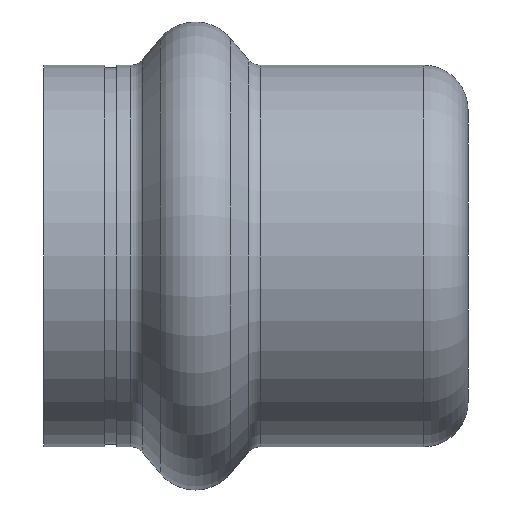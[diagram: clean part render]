
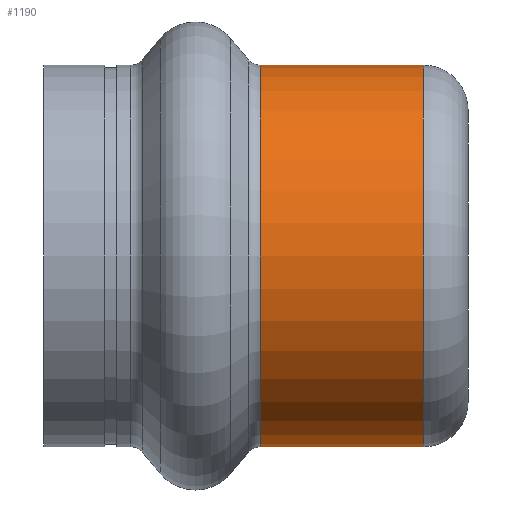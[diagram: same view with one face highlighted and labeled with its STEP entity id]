
A CAD part, front view. The second image highlights one B-rep face of the part: STEP entity #1190.
In plain terms, the highlighted cylindrical face has radius 12.6 mm (diameter 25.2 mm), a partial arc.
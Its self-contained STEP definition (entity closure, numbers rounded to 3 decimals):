
#98 = VECTOR ( 'NONE', #621, 1000. ) ;
#100 = CARTESIAN_POINT ( 'NONE',  ( 18.268, 0., -12.6 ) ) ;
#107 = ORIENTED_EDGE ( 'NONE', *, *, #166, .T. ) ;
#166 = EDGE_CURVE ( 'NONE', #1043, #866, #970, .T. ) ;
#177 = ORIENTED_EDGE ( 'NONE', *, *, #856, .T. ) ;
#241 = DIRECTION ( 'NONE',  ( -1., 0., 0. ) ) ;
#251 = VECTOR ( 'NONE', #932, 1000. ) ;
#393 = LINE ( 'NONE', #899, #98 ) ;
#414 = AXIS2_PLACEMENT_3D ( 'NONE', #517, #534, #542 ) ;
#470 = VERTEX_POINT ( 'NONE', #1407 ) ;
#482 = CARTESIAN_POINT ( 'NONE',  ( 18.268, 0., 0. ) ) ;
#502 = DIRECTION ( 'NONE',  ( 0., 0., -1. ) ) ;
#517 = CARTESIAN_POINT ( 'NONE',  ( 29.05, 0., 0. ) ) ;
#534 = DIRECTION ( 'NONE',  ( -1., 0., 0. ) ) ;
#540 = LINE ( 'NONE', #1126, #251 ) ;
#542 = DIRECTION ( 'NONE',  ( 0., 0., 1. ) ) ;
#582 = EDGE_CURVE ( 'NONE', #470, #866, #393, .T. ) ;
#586 = CIRCLE ( 'NONE', #414, 12.6 ) ;
#621 = DIRECTION ( 'NONE',  ( -1., 0., 0. ) ) ;
#796 = CARTESIAN_POINT ( 'NONE',  ( 29.05, 0., 12.6 ) ) ;
#818 = DIRECTION ( 'NONE',  ( 1., 0., 0. ) ) ;
#856 = EDGE_CURVE ( 'NONE', #1106, #1043, #540, .T. ) ;
#866 = VERTEX_POINT ( 'NONE', #100 ) ;
#876 = AXIS2_PLACEMENT_3D ( 'NONE', #482, #818, #502 ) ;
#899 = CARTESIAN_POINT ( 'NONE',  ( -7.298, 0., -12.6 ) ) ;
#917 = EDGE_CURVE ( 'NONE', #470, #1106, #586, .T. ) ;
#928 = CARTESIAN_POINT ( 'NONE',  ( -7.298, 0., 0. ) ) ;
#932 = DIRECTION ( 'NONE',  ( -1., 0., 0. ) ) ;
#970 = CIRCLE ( 'NONE', #876, 12.6 ) ;
#1012 = EDGE_LOOP ( 'NONE', ( #1282, #1194, #177, #107 ) ) ;
#1028 = AXIS2_PLACEMENT_3D ( 'NONE', #928, #241, #1260 ) ;
#1043 = VERTEX_POINT ( 'NONE', #1161 ) ;
#1068 = CYLINDRICAL_SURFACE ( 'NONE', #1028, 12.6 ) ;
#1106 = VERTEX_POINT ( 'NONE', #796 ) ;
#1126 = CARTESIAN_POINT ( 'NONE',  ( -7.298, 0., 12.6 ) ) ;
#1161 = CARTESIAN_POINT ( 'NONE',  ( 18.268, 0., 12.6 ) ) ;
#1190 = ADVANCED_FACE ( 'NONE', ( #1279 ), #1068, .T. ) ;
#1194 = ORIENTED_EDGE ( 'NONE', *, *, #917, .T. ) ;
#1260 = DIRECTION ( 'NONE',  ( 0., 0., 1. ) ) ;
#1279 = FACE_OUTER_BOUND ( 'NONE', #1012, .T. ) ;
#1282 = ORIENTED_EDGE ( 'NONE', *, *, #582, .F. ) ;
#1407 = CARTESIAN_POINT ( 'NONE',  ( 29.05, 0., -12.6 ) ) ;
